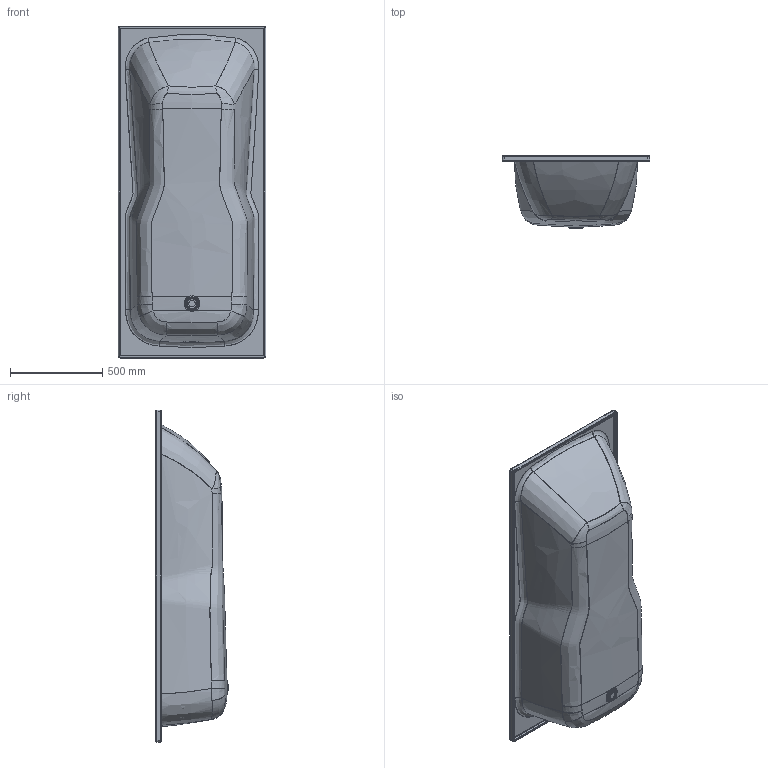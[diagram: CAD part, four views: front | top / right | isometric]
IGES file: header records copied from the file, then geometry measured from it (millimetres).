
Start section: Write IGES format                                    datakit 2008 (c)
Global section: file name: Unknown; native system: DATAKIT Converter; preprocessor: Unknown; author: Unknown; organization: Unknown; date: 950613.180003; units: millimetre
Bounding box: 800 x 392 x 1800 mm (x, y, z)
Surface area: 5258129 mm2 (no closed solid volume)
Topology: 0 solids, 0 shells, 173 faces, 979 edges, 974 vertices
Faces by surface type: bspline 89, revolution 76, offset 8
